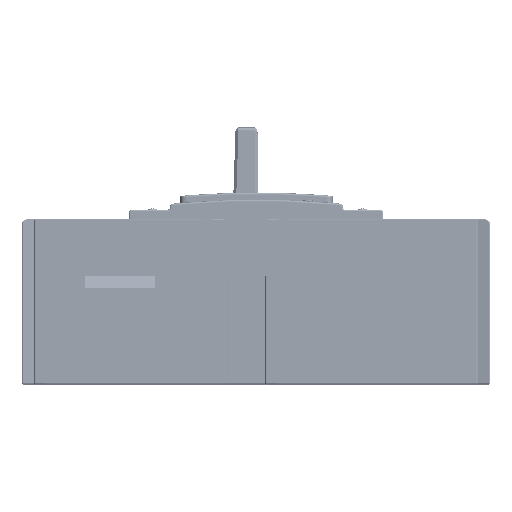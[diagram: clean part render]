
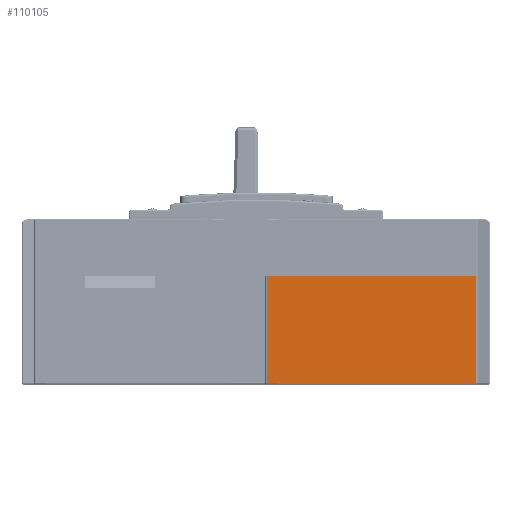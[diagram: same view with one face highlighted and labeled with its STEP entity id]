
A CAD part, front view. The second image highlights one B-rep face of the part: STEP entity #110105.
In plain terms, the highlighted planar face has unit normal (0, -1, 0).
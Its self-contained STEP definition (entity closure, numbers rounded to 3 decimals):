
#6616=PLANE('',#119949);
#11618=FACE_OUTER_BOUND('',#17975,.T.);
#17975=EDGE_LOOP('',(#93920,#93921,#93922,#93923));
#31349=LINE('',#242542,#41933);
#31364=LINE('',#242588,#41948);
#31365=LINE('',#242590,#41949);
#31366=LINE('',#242591,#41950);
#41933=VECTOR('',#143263,123.55);
#41948=VECTOR('',#143298,63.);
#41949=VECTOR('',#143299,123.55);
#41950=VECTOR('',#143300,63.);
#52693=VERTEX_POINT('',#242539);
#52694=VERTEX_POINT('',#242541);
#52715=VERTEX_POINT('',#242587);
#52716=VERTEX_POINT('',#242589);
#67090=EDGE_CURVE('',#52693,#52694,#31349,.F.);
#67113=EDGE_CURVE('',#52693,#52715,#31364,.F.);
#67114=EDGE_CURVE('',#52715,#52716,#31365,.F.);
#67115=EDGE_CURVE('',#52694,#52716,#31366,.T.);
#93920=ORIENTED_EDGE('',*,*,#67090,.F.);
#93921=ORIENTED_EDGE('',*,*,#67113,.T.);
#93922=ORIENTED_EDGE('',*,*,#67114,.T.);
#93923=ORIENTED_EDGE('',*,*,#67115,.F.);
#110105=ADVANCED_FACE('',(#11618),#6616,.F.);
#119949=AXIS2_PLACEMENT_3D('',#242586,#143296,#143297);
#143263=DIRECTION('',(-1.,0.,0.));
#143296=DIRECTION('center_axis',(0.,1.,
0.));
#143297=DIRECTION('ref_axis',(0.,0.,1.));
#143298=DIRECTION('',(0.,0.,1.));
#143299=DIRECTION('',(-1.,0.,0.));
#143300=DIRECTION('',(0.,0.,-1.));
#242539=CARTESIAN_POINT('',(-10.811,-337.3,60.9));
#242541=CARTESIAN_POINT('',(112.739,-337.3,60.9));
#242542=CARTESIAN_POINT('',(112.739,-337.3,60.9));
#242586=CARTESIAN_POINT('Origin',(120.239,-337.3,60.9));
#242587=CARTESIAN_POINT('',(-10.811,-337.3,-2.1));
#242588=CARTESIAN_POINT('',(-10.811,-337.3,-2.1));
#242589=CARTESIAN_POINT('',(112.739,-337.3,-2.1));
#242590=CARTESIAN_POINT('',(112.739,-337.3,-2.1));
#242591=CARTESIAN_POINT('',(112.739,-337.3,60.9));
